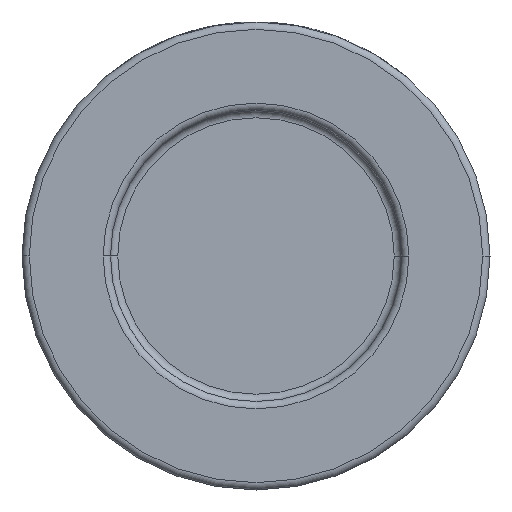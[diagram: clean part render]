
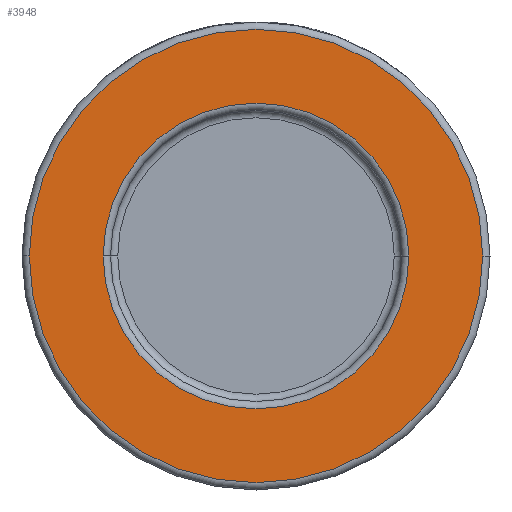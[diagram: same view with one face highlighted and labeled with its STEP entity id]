
A CAD part, front view. The second image highlights one B-rep face of the part: STEP entity #3948.
In plain terms, the highlighted planar face has unit normal (0, -1, 0).
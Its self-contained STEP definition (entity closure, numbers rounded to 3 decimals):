
#51 = EDGE_CURVE ( 'NONE', #1856, #320, #4190, .T. ) ;
#126 = CIRCLE ( 'NONE', #3246, 31. ) ;
#320 = VERTEX_POINT ( 'NONE', #1779 ) ;
#498 = AXIS2_PLACEMENT_3D ( 'NONE', #3248, #1808, #812 ) ;
#711 = CARTESIAN_POINT ( 'NONE',  ( -31., -22., 0. ) ) ;
#742 = CARTESIAN_POINT ( 'NONE',  ( -20.9, -22., 0. ) ) ;
#812 = DIRECTION ( 'NONE',  ( 1., 0., 0. ) ) ;
#835 = DIRECTION ( 'NONE',  ( 0., -1., 0. ) ) ;
#881 = FACE_BOUND ( 'NONE', #1906, .T. ) ;
#1038 = DIRECTION ( 'NONE',  ( 1., 0., 0. ) ) ;
#1078 = DIRECTION ( 'NONE',  ( 1., 0., 0. ) ) ;
#1092 = CIRCLE ( 'NONE', #498, 31. ) ;
#1211 = EDGE_CURVE ( 'NONE', #2376, #4161, #1092, .T. ) ;
#1300 = ORIENTED_EDGE ( 'NONE', *, *, #1847, .T. ) ;
#1485 = DIRECTION ( 'NONE',  ( 0., 1., 0. ) ) ;
#1779 = CARTESIAN_POINT ( 'NONE',  ( 20.9, -22., 0. ) ) ;
#1808 = DIRECTION ( 'NONE',  ( 0., -1., 0. ) ) ;
#1847 = EDGE_CURVE ( 'NONE', #4161, #2376, #126, .T. ) ;
#1856 = VERTEX_POINT ( 'NONE', #742 ) ;
#1906 = EDGE_LOOP ( 'NONE', ( #3621, #4342 ) ) ;
#2186 = AXIS2_PLACEMENT_3D ( 'NONE', #3039, #2275, #4112 ) ;
#2250 = DIRECTION ( 'NONE',  ( 1., 0., 0. ) ) ;
#2275 = DIRECTION ( 'NONE',  ( 0., 1., 0. ) ) ;
#2361 = AXIS2_PLACEMENT_3D ( 'NONE', #3673, #1485, #1038 ) ;
#2376 = VERTEX_POINT ( 'NONE', #3927 ) ;
#2626 = EDGE_LOOP ( 'NONE', ( #4512, #1300 ) ) ;
#2751 = EDGE_CURVE ( 'NONE', #320, #1856, #4584, .T. ) ;
#3039 = CARTESIAN_POINT ( 'NONE',  ( 0., -22., 0. ) ) ;
#3246 = AXIS2_PLACEMENT_3D ( 'NONE', #4267, #3822, #1078 ) ;
#3248 = CARTESIAN_POINT ( 'NONE',  ( 0., -22., 0. ) ) ;
#3384 = FACE_OUTER_BOUND ( 'NONE', #2626, .T. ) ;
#3411 = CARTESIAN_POINT ( 'NONE',  ( 32., -22., 0. ) ) ;
#3621 = ORIENTED_EDGE ( 'NONE', *, *, #2751, .T. ) ;
#3673 = CARTESIAN_POINT ( 'NONE',  ( 0., -22., 0. ) ) ;
#3685 = PLANE ( 'NONE',  #4591 ) ;
#3822 = DIRECTION ( 'NONE',  ( 0., -1., 0. ) ) ;
#3927 = CARTESIAN_POINT ( 'NONE',  ( 31., -22., 0. ) ) ;
#3948 = ADVANCED_FACE ( 'NONE', ( #881, #3384 ), #3685, .T. ) ;
#4112 = DIRECTION ( 'NONE',  ( 1., 0., 0. ) ) ;
#4161 = VERTEX_POINT ( 'NONE', #711 ) ;
#4190 = CIRCLE ( 'NONE', #2186, 20.9 ) ;
#4267 = CARTESIAN_POINT ( 'NONE',  ( 0., -22., 0. ) ) ;
#4342 = ORIENTED_EDGE ( 'NONE', *, *, #51, .T. ) ;
#4512 = ORIENTED_EDGE ( 'NONE', *, *, #1211, .T. ) ;
#4584 = CIRCLE ( 'NONE', #2361, 20.9 ) ;
#4591 = AXIS2_PLACEMENT_3D ( 'NONE', #3411, #835, #2250 ) ;
